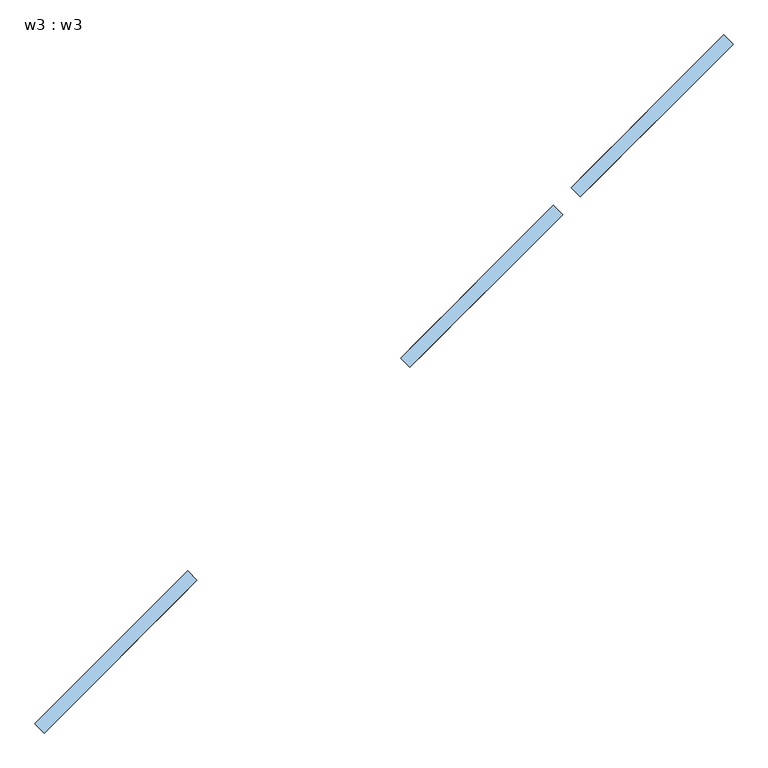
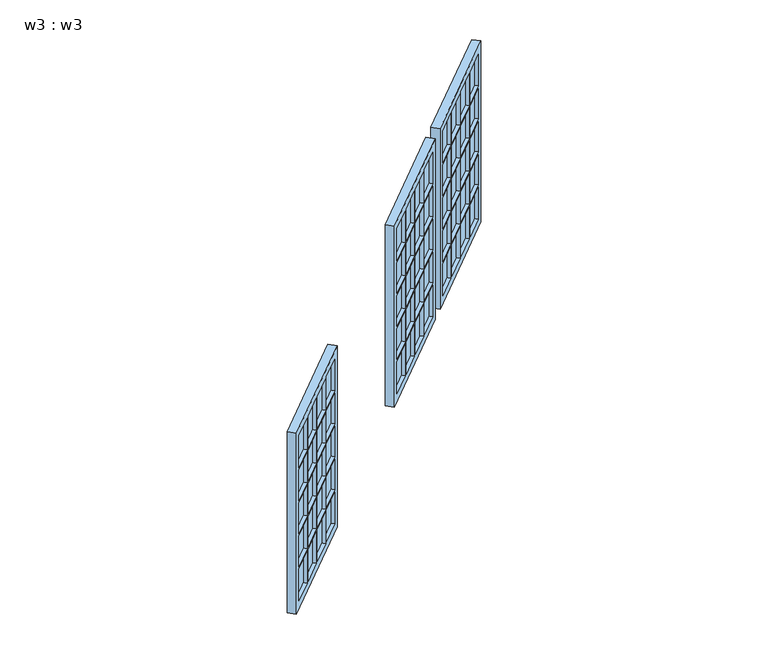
"""IFC4 building model written with IfcOpenShell, lengths in millimetres: window geometry, w3 : w3."""

from ifc_helpers import new_model, si_unit, frame, origin, place, context, project, spatial, polyline, outline, extrude, source, transform, mapped, element, save


def w3_w3_3cd2d508(model_context):
    return source(origin(), model_context, "Body", "SweptSolid", [
        extrude(outline(polyline([(-3882.5332557, 5260.702841), (-3742.1867496, 5401.0345476), (-3735.1160546, 5393.963107), (-3875.4625608, 5253.6314003), (-3882.5332557, 5260.702841)])), frame((0.0, 0.0, 6632.4691085), z_axis=(0.0, 0.0, 1.0), x_axis=(1.0, 0.0, 0.0)), (0.0, 0.0, 1.0), 238.7654457),
        extrude(outline(polyline([(-3882.5332557, 5260.702841), (-3742.1867496, 5401.0345476), (-3735.1160546, 5393.963107), (-3875.4625608, 5253.6314003), (-3882.5332557, 5260.702841)])), frame((0.0, 0.0, 6383.7036628), z_axis=(0.0, 0.0, 1.0), x_axis=(1.0, 0.0, 0.0)), (0.0, 0.0, 1.0), 238.7654457),
        extrude(outline(polyline([(-4038.1049499, 5105.1475518), (-3897.7584437, 5245.4792585), (-3890.6877488, 5238.4078178), (-4031.0342549, 5098.0761112), (-4038.1049499, 5105.1475518)])), frame((0.0, 0.0, 6383.7036628), z_axis=(0.0, 0.0, 1.0), x_axis=(1.0, 0.0, 0.0)), (0.0, 0.0, 1.0), 238.7654457),
        extrude(outline(polyline([(-4038.1049499, 5105.1475518), (-3897.7584437, 5245.4792585), (-3890.6877488, 5238.4078178), (-4031.0342549, 5098.0761112), (-4038.1049499, 5105.1475518)])), frame((0.0, 0.0, 6632.4691085), z_axis=(0.0, 0.0, 1.0), x_axis=(1.0, 0.0, 0.0)), (0.0, 0.0, 1.0), 238.7654457),
        extrude(outline(polyline([(-4193.676644, 4949.5922627), (-4053.3301379, 5089.9239693), (-4046.2594429, 5082.8525287), (-4186.6059491, 4942.5208221), (-4193.676644, 4949.5922627)])), frame((0.0, 0.0, 6632.4691085), z_axis=(0.0, 0.0, 1.0), x_axis=(1.0, 0.0, 0.0)), (0.0, 0.0, 1.0), 238.7654457),
        extrude(outline(polyline([(-4193.676644, 4949.5922627), (-4053.3301379, 5089.9239693), (-4046.2594429, 5082.8525287), (-4186.6059491, 4942.5208221), (-4193.676644, 4949.5922627)])), frame((0.0, 0.0, 6383.7036628), z_axis=(0.0, 0.0, 1.0), x_axis=(1.0, 0.0, 0.0)), (0.0, 0.0, 1.0), 238.7654457),
        extrude(outline(polyline([(-4193.676644, 4949.5922627), (-4053.3301379, 5089.9239693), (-4046.2594429, 5082.8525287), (-4186.6059491, 4942.5208221), (-4193.676644, 4949.5922627)])), frame((0.0, 0.0, 6134.938217), z_axis=(0.0, 0.0, 1.0), x_axis=(1.0, 0.0, 0.0)), (0.0, 0.0, 1.0), 238.7654457),
        extrude(outline(polyline([(-4038.1049499, 5105.1475518), (-3897.7584437, 5245.4792585), (-3890.6877488, 5238.4078178), (-4031.0342549, 5098.0761112), (-4038.1049499, 5105.1475518)])), frame((0.0, 0.0, 6134.938217), z_axis=(0.0, 0.0, 1.0), x_axis=(1.0, 0.0, 0.0)), (0.0, 0.0, 1.0), 238.7654457),
        extrude(outline(polyline([(-3882.5332557, 5260.702841), (-3742.1867496, 5401.0345476), (-3735.1160546, 5393.963107), (-3875.4625608, 5253.6314003), (-3882.5332557, 5260.702841)])), frame((0.0, 0.0, 6134.938217), z_axis=(0.0, 0.0, 1.0), x_axis=(1.0, 0.0, 0.0)), (0.0, 0.0, 1.0), 238.7654457),
        extrude(outline(polyline([(-3882.5332557, 5260.702841), (-3742.1867496, 5401.0345476), (-3735.1160546, 5393.963107), (-3875.4625608, 5253.6314003), (-3882.5332557, 5260.702841)])), frame((0.0, 0.0, 5876.1727713), z_axis=(0.0, 0.0, 1.0), x_axis=(1.0, 0.0, 0.0)), (0.0, 0.0, 1.0), 238.7654457),
        extrude(outline(polyline([(-4038.1049499, 5105.1475518), (-3897.7584437, 5245.4792585), (-3890.6877488, 5238.4078178), (-4031.0342549, 5098.0761112), (-4038.1049499, 5105.1475518)])), frame((0.0, 0.0, 5876.1727713), z_axis=(0.0, 0.0, 1.0), x_axis=(1.0, 0.0, 0.0)), (0.0, 0.0, 1.0), 238.7654457),
        extrude(outline(polyline([(-4193.676644, 4949.5922627), (-4053.3301379, 5089.9239693), (-4046.2594429, 5082.8525287), (-4186.6059491, 4942.5208221), (-4193.676644, 4949.5922627)])), frame((0.0, 0.0, 5876.1727713), z_axis=(0.0, 0.0, 1.0), x_axis=(1.0, 0.0, 0.0)), (0.0, 0.0, 1.0), 238.7654457),
        extrude(outline(polyline([(-4348.1660315, 4795.1191661), (-4207.8195253, 4935.4508728), (-4200.7488303, 4928.3794321), (-4341.0953365, 4788.0477255), (-4348.1660315, 4795.1191661)])), frame((0.0, 0.0, 5876.1727713), z_axis=(0.0, 0.0, 1.0), x_axis=(1.0, 0.0, 0.0)), (0.0, 0.0, 1.0), 238.7654457),
        extrude(outline(polyline([(-4348.1660315, 4795.1191661), (-4207.8195253, 4935.4508728), (-4200.7488303, 4928.3794321), (-4341.0953365, 4788.0477255), (-4348.1660315, 4795.1191661)])), frame((0.0, 0.0, 6134.938217), z_axis=(0.0, 0.0, 1.0), x_axis=(1.0, 0.0, 0.0)), (0.0, 0.0, 1.0), 238.7654457),
        extrude(outline(polyline([(-4348.1660315, 4795.1191661), (-4207.8195253, 4935.4508728), (-4200.7488303, 4928.3794321), (-4341.0953365, 4788.0477255), (-4348.1660315, 4795.1191661)])), frame((0.0, 0.0, 6383.7036628), z_axis=(0.0, 0.0, 1.0), x_axis=(1.0, 0.0, 0.0)), (0.0, 0.0, 1.0), 238.7654457),
        extrude(outline(polyline([(-4348.1660315, 4795.1191661), (-4207.8195253, 4935.4508728), (-4200.7488303, 4928.3794321), (-4341.0953365, 4788.0477255), (-4348.1660315, 4795.1191661)])), frame((0.0, 0.0, 6632.4691085), z_axis=(0.0, 0.0, 1.0), x_axis=(1.0, 0.0, 0.0)), (0.0, 0.0, 1.0), 238.7654457),
        extrude(outline(polyline([(-4348.1660315, 4795.1191661), (-4207.8195253, 4935.4508728), (-4200.7488303, 4928.3794321), (-4341.0953365, 4788.0477255), (-4348.1660315, 4795.1191661)])), frame((0.0, 0.0, 6881.2345543), z_axis=(0.0, 0.0, 1.0), x_axis=(1.0, 0.0, 0.0)), (0.0, 0.0, 1.0), 238.7654457),
        extrude(outline(polyline([(-4193.676644, 4949.5922627), (-4053.3301379, 5089.9239693), (-4046.2594429, 5082.8525287), (-4186.6059491, 4942.5208221), (-4193.676644, 4949.5922627)])), frame((0.0, 0.0, 6881.2345543), z_axis=(0.0, 0.0, 1.0), x_axis=(1.0, 0.0, 0.0)), (0.0, 0.0, 1.0), 238.7654457),
        extrude(outline(polyline([(-4038.1049499, 5105.1475518), (-3897.7584437, 5245.4792585), (-3890.6877488, 5238.4078178), (-4031.0342549, 5098.0761112), (-4038.1049499, 5105.1475518)])), frame((0.0, 0.0, 6881.2345543), z_axis=(0.0, 0.0, 1.0), x_axis=(1.0, 0.0, 0.0)), (0.0, 0.0, 1.0), 238.7654457),
        extrude(outline(polyline([(-3882.5332557, 5260.702841), (-3742.1867496, 5401.0345476), (-3735.1160546, 5393.963107), (-3875.4625608, 5253.6314003), (-3882.5332557, 5260.702841)])), frame((0.0, 0.0, 6881.2345543), z_axis=(0.0, 0.0, 1.0), x_axis=(1.0, 0.0, 0.0)), (0.0, 0.0, 1.0), 238.7654457),
        extrude(outline(polyline([(1363.8272287, 0.0), (1363.8272287, -976.9389357), (0.0, -976.9389357), (0.0, 0.0), (1363.8272287, 0.0)]), holes=[polyline([(1303.8272287, -258.4694679), (1303.8272287, -59.9999999), (1065.061783, -59.9999999), (1065.061783, -258.4694679), (1303.8272287, -258.4694679)]), polyline([(298.7654457, -59.9999999), (60.0, -59.9999999), (60.0, -258.4694679), (298.7654457, -258.4694679), (298.7654457, -59.9999999)]), polyline([(1065.061783, -916.9389357), (1303.8272287, -916.9389357), (1303.8272287, -718.4694678), (1065.061783, -718.4694678), (1065.061783, -916.9389357)]), polyline([(60.0, -718.4694678), (60.0, -916.9389357), (298.7654457, -916.9389357), (298.7654457, -718.4694678), (60.0, -718.4694678)]), polyline([(1065.061783, -498.4694678), (1065.061783, -698.4694679), (1303.8272287, -698.4694679), (1303.8272287, -498.4694678), (1065.061783, -498.4694678)]), polyline([(1065.061783, -478.4694678), (1303.8272287, -478.4694678), (1303.8272287, -278.4694679), (1065.061783, -278.4694679), (1065.061783, -478.4694678)]), polyline([(60.0, -278.4694679), (60.0, -478.4694678), (298.7654457, -478.4694678), (298.7654457, -278.4694679), (60.0, -278.4694679)]), polyline([(60.0, -498.4694678), (60.0, -698.4694679), (298.7654457, -698.4694679), (298.7654457, -498.4694678), (60.0, -498.4694678)]), polyline([(1045.061783, -258.4694679), (1045.061783, -59.9999999), (816.2963372, -59.9999999), (816.2963372, -258.4694679), (1045.061783, -258.4694679)]), polyline([(796.2963372, -258.4694679), (796.2963372, -59.9999999), (567.5308915, -59.9999999), (567.5308915, -258.4694679), (796.2963372, -258.4694679)]), polyline([(547.5308915, -258.4694679), (547.5308915, -59.9999999), (318.7654457, -59.9999999), (318.7654457, -258.4694679), (547.5308915, -258.4694679)]), polyline([(318.7654457, -478.4694678), (547.5308915, -478.4694678), (547.5308915, -278.4694679), (318.7654457, -278.4694679), (318.7654457, -478.4694678)]), polyline([(318.7654457, -698.4694679), (547.5308915, -698.4694679), (547.5308915, -498.4694678), (318.7654457, -498.4694678), (318.7654457, -698.4694679)]), polyline([(318.7654457, -916.9389357), (547.5308915, -916.9389357), (547.5308915, -718.4694678), (318.7654457, -718.4694678), (318.7654457, -916.9389357)]), polyline([(567.5308915, -916.9389357), (796.2963372, -916.9389357), (796.2963372, -718.4694678), (567.5308915, -718.4694678), (567.5308915, -916.9389357)]), polyline([(567.5308915, -698.4694679), (796.2963372, -698.4694679), (796.2963372, -498.4694678), (567.5308915, -498.4694678), (567.5308915, -698.4694679)]), polyline([(567.5308915, -478.4694678), (796.2963372, -478.4694678), (796.2963372, -278.4694679), (567.5308915, -278.4694679), (567.5308915, -478.4694678)]), polyline([(1045.061783, -478.4694678), (1045.061783, -278.4694679), (816.2963372, -278.4694679), (816.2963372, -478.4694678), (1045.061783, -478.4694678)]), polyline([(1045.061783, -698.4694679), (1045.061783, -498.4694678), (816.2963372, -498.4694678), (816.2963372, -698.4694679), (1045.061783, -698.4694679)]), polyline([(1045.061783, -916.9389357), (1045.061783, -718.4694678), (816.2963372, -718.4694678), (816.2963372, -916.9389357), (1045.061783, -916.9389357)])]), frame((-3675.0106734, 5418.7086751, 5816.1727713), z_axis=(-0.7070694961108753, 0.7071440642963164, 0.0), x_axis=(0.0, 0.0, 1.0)), (0.0, 0.0, 1.0), 60.0),
        extrude(outline(polyline([(-2227.8161453, 6915.2454619), (-2087.4696391, 7055.5771685), (-2080.3989442, 7048.5057279), (-2220.7454503, 6908.1740212), (-2227.8161453, 6915.2454619)])), frame((0.0, 0.0, 6612.4691085), z_axis=(0.0, 0.0, 1.0), x_axis=(1.0, 0.0, 0.0)), (0.0, 0.0, 1.0), 238.7654457),
        extrude(outline(polyline([(-2227.8161453, 6915.2454619), (-2087.4696391, 7055.5771685), (-2080.3989442, 7048.5057279), (-2220.7454503, 6908.1740212), (-2227.8161453, 6915.2454619)])), frame((0.0, 0.0, 6363.7036628), z_axis=(0.0, 0.0, 1.0), x_axis=(1.0, 0.0, 0.0)), (0.0, 0.0, 1.0), 238.7654457),
        extrude(outline(polyline([(-2383.3878394, 6759.6901727), (-2243.0413333, 6900.0218794), (-2235.9706383, 6892.9504387), (-2376.3171445, 6752.6187321), (-2383.3878394, 6759.6901727)])), frame((0.0, 0.0, 6363.7036628), z_axis=(0.0, 0.0, 1.0), x_axis=(1.0, 0.0, 0.0)), (0.0, 0.0, 1.0), 238.7654457),
        extrude(outline(polyline([(-2383.3878394, 6759.6901727), (-2243.0413333, 6900.0218794), (-2235.9706383, 6892.9504387), (-2376.3171445, 6752.6187321), (-2383.3878394, 6759.6901727)])), frame((0.0, 0.0, 6612.4691085), z_axis=(0.0, 0.0, 1.0), x_axis=(1.0, 0.0, 0.0)), (0.0, 0.0, 1.0), 238.7654457),
        extrude(outline(polyline([(-2538.9595336, 6604.1348836), (-2398.6130274, 6744.4665902), (-2391.5423325, 6737.3951496), (-2531.8888386, 6597.063443), (-2538.9595336, 6604.1348836)])), frame((0.0, 0.0, 6612.4691085), z_axis=(0.0, 0.0, 1.0), x_axis=(1.0, 0.0, 0.0)), (0.0, 0.0, 1.0), 238.7654457),
        extrude(outline(polyline([(-2538.9595336, 6604.1348836), (-2398.6130274, 6744.4665902), (-2391.5423325, 6737.3951496), (-2531.8888386, 6597.063443), (-2538.9595336, 6604.1348836)])), frame((0.0, 0.0, 6363.7036628), z_axis=(0.0, 0.0, 1.0), x_axis=(1.0, 0.0, 0.0)), (0.0, 0.0, 1.0), 238.7654457),
        extrude(outline(polyline([(-2538.9595336, 6604.1348836), (-2398.6130274, 6744.4665902), (-2391.5423325, 6737.3951496), (-2531.8888386, 6597.063443), (-2538.9595336, 6604.1348836)])), frame((0.0, 0.0, 6114.938217), z_axis=(0.0, 0.0, 1.0), x_axis=(1.0, 0.0, 0.0)), (0.0, 0.0, 1.0), 238.7654457),
        extrude(outline(polyline([(-2383.3878394, 6759.6901727), (-2243.0413333, 6900.0218794), (-2235.9706383, 6892.9504387), (-2376.3171445, 6752.6187321), (-2383.3878394, 6759.6901727)])), frame((0.0, 0.0, 6114.938217), z_axis=(0.0, 0.0, 1.0), x_axis=(1.0, 0.0, 0.0)), (0.0, 0.0, 1.0), 238.7654457),
        extrude(outline(polyline([(-2227.8161453, 6915.2454619), (-2087.4696391, 7055.5771685), (-2080.3989442, 7048.5057279), (-2220.7454503, 6908.1740212), (-2227.8161453, 6915.2454619)])), frame((0.0, 0.0, 6114.938217), z_axis=(0.0, 0.0, 1.0), x_axis=(1.0, 0.0, 0.0)), (0.0, 0.0, 1.0), 238.7654457),
        extrude(outline(polyline([(-2227.8161453, 6915.2454619), (-2087.4696391, 7055.5771685), (-2080.3989442, 7048.5057279), (-2220.7454503, 6908.1740212), (-2227.8161453, 6915.2454619)])), frame((0.0, 0.0, 5856.1727713), z_axis=(0.0, 0.0, 1.0), x_axis=(1.0, 0.0, 0.0)), (0.0, 0.0, 1.0), 238.7654457),
        extrude(outline(polyline([(-2383.3878394, 6759.6901727), (-2243.0413333, 6900.0218794), (-2235.9706383, 6892.9504387), (-2376.3171445, 6752.6187321), (-2383.3878394, 6759.6901727)])), frame((0.0, 0.0, 5856.1727713), z_axis=(0.0, 0.0, 1.0), x_axis=(1.0, 0.0, 0.0)), (0.0, 0.0, 1.0), 238.7654457),
        extrude(outline(polyline([(-2538.9595336, 6604.1348836), (-2398.6130274, 6744.4665902), (-2391.5423325, 6737.3951496), (-2531.8888386, 6597.063443), (-2538.9595336, 6604.1348836)])), frame((0.0, 0.0, 5856.1727713), z_axis=(0.0, 0.0, 1.0), x_axis=(1.0, 0.0, 0.0)), (0.0, 0.0, 1.0), 238.7654457),
        extrude(outline(polyline([(-2693.448921, 6449.661787), (-2553.1024149, 6589.9934937), (-2546.0317199, 6582.922053), (-2686.378226, 6442.5903464), (-2693.448921, 6449.661787)])), frame((0.0, 0.0, 5856.1727713), z_axis=(0.0, 0.0, 1.0), x_axis=(1.0, 0.0, 0.0)), (0.0, 0.0, 1.0), 238.7654457),
        extrude(outline(polyline([(-2693.448921, 6449.661787), (-2553.1024149, 6589.9934937), (-2546.0317199, 6582.922053), (-2686.378226, 6442.5903464), (-2693.448921, 6449.661787)])), frame((0.0, 0.0, 6114.938217), z_axis=(0.0, 0.0, 1.0), x_axis=(1.0, 0.0, 0.0)), (0.0, 0.0, 1.0), 238.7654457),
        extrude(outline(polyline([(-2693.448921, 6449.661787), (-2553.1024149, 6589.9934937), (-2546.0317199, 6582.922053), (-2686.378226, 6442.5903464), (-2693.448921, 6449.661787)])), frame((0.0, 0.0, 6363.7036628), z_axis=(0.0, 0.0, 1.0), x_axis=(1.0, 0.0, 0.0)), (0.0, 0.0, 1.0), 238.7654457),
        extrude(outline(polyline([(-2693.448921, 6449.661787), (-2553.1024149, 6589.9934937), (-2546.0317199, 6582.922053), (-2686.378226, 6442.5903464), (-2693.448921, 6449.661787)])), frame((0.0, 0.0, 6612.4691085), z_axis=(0.0, 0.0, 1.0), x_axis=(1.0, 0.0, 0.0)), (0.0, 0.0, 1.0), 238.7654457),
        extrude(outline(polyline([(-2693.448921, 6449.661787), (-2553.1024149, 6589.9934937), (-2546.0317199, 6582.922053), (-2686.378226, 6442.5903464), (-2693.448921, 6449.661787)])), frame((0.0, 0.0, 6861.2345543), z_axis=(0.0, 0.0, 1.0), x_axis=(1.0, 0.0, 0.0)), (0.0, 0.0, 1.0), 238.7654457),
        extrude(outline(polyline([(-2538.9595336, 6604.1348836), (-2398.6130274, 6744.4665902), (-2391.5423325, 6737.3951496), (-2531.8888386, 6597.063443), (-2538.9595336, 6604.1348836)])), frame((0.0, 0.0, 6861.2345543), z_axis=(0.0, 0.0, 1.0), x_axis=(1.0, 0.0, 0.0)), (0.0, 0.0, 1.0), 238.7654457),
        extrude(outline(polyline([(-2383.3878394, 6759.6901727), (-2243.0413333, 6900.0218794), (-2235.9706383, 6892.9504387), (-2376.3171445, 6752.6187321), (-2383.3878394, 6759.6901727)])), frame((0.0, 0.0, 6861.2345543), z_axis=(0.0, 0.0, 1.0), x_axis=(1.0, 0.0, 0.0)), (0.0, 0.0, 1.0), 238.7654457),
        extrude(outline(polyline([(-2227.8161453, 6915.2454619), (-2087.4696391, 7055.5771685), (-2080.3989442, 7048.5057279), (-2220.7454503, 6908.1740212), (-2227.8161453, 6915.2454619)])), frame((0.0, 0.0, 6861.2345543), z_axis=(0.0, 0.0, 1.0), x_axis=(1.0, 0.0, 0.0)), (0.0, 0.0, 1.0), 238.7654457),
        extrude(outline(polyline([(1363.8272287, 0.0), (1363.8272287, -976.9389357), (0.0, -976.9389357), (0.0, 0.0), (1363.8272287, 0.0)]), holes=[polyline([(1303.8272287, -258.4694679), (1303.8272287, -60.0), (1065.061783, -60.0), (1065.061783, -258.4694679), (1303.8272287, -258.4694679)]), polyline([(298.7654457, -60.0), (60.0, -60.0), (60.0, -258.4694679), (298.7654457, -258.4694679), (298.7654457, -60.0)]), polyline([(1065.061783, -916.9389357), (1303.8272287, -916.9389357), (1303.8272287, -718.4694679), (1065.061783, -718.4694679), (1065.061783, -916.9389357)]), polyline([(60.0, -718.4694679), (60.0, -916.9389357), (298.7654457, -916.9389357), (298.7654457, -718.4694679), (60.0, -718.4694679)]), polyline([(1065.061783, -498.4694678), (1065.061783, -698.4694679), (1303.8272287, -698.4694679), (1303.8272287, -498.4694678), (1065.061783, -498.4694678)]), polyline([(1065.061783, -478.4694679), (1303.8272287, -478.4694679), (1303.8272287, -278.4694679), (1065.061783, -278.4694679), (1065.061783, -478.4694679)]), polyline([(60.0, -278.4694679), (60.0, -478.4694679), (298.7654457, -478.4694679), (298.7654457, -278.4694679), (60.0, -278.4694679)]), polyline([(60.0, -498.4694678), (60.0, -698.4694679), (298.7654457, -698.4694679), (298.7654457, -498.4694678), (60.0, -498.4694678)]), polyline([(1045.061783, -258.4694679), (1045.061783, -60.0), (816.2963372, -60.0), (816.2963372, -258.4694679), (1045.061783, -258.4694679)]), polyline([(796.2963372, -258.4694679), (796.2963372, -60.0), (567.5308915, -60.0), (567.5308915, -258.4694679), (796.2963372, -258.4694679)]), polyline([(547.5308915, -258.4694679), (547.5308915, -60.0), (318.7654457, -60.0), (318.7654457, -258.4694679), (547.5308915, -258.4694679)]), polyline([(318.7654457, -478.4694679), (547.5308915, -478.4694679), (547.5308915, -278.4694679), (318.7654457, -278.4694679), (318.7654457, -478.4694679)]), polyline([(318.7654457, -698.4694679), (547.5308915, -698.4694679), (547.5308915, -498.4694678), (318.7654457, -498.4694678), (318.7654457, -698.4694679)]), polyline([(318.7654457, -916.9389357), (547.5308915, -916.9389357), (547.5308915, -718.4694679), (318.7654457, -718.4694679), (318.7654457, -916.9389357)]), polyline([(567.5308915, -916.9389357), (796.2963372, -916.9389357), (796.2963372, -718.4694679), (567.5308915, -718.4694679), (567.5308915, -916.9389357)]), polyline([(567.5308915, -698.4694679), (796.2963372, -698.4694679), (796.2963372, -498.4694678), (567.5308915, -498.4694678), (567.5308915, -698.4694679)]), polyline([(567.5308915, -478.4694679), (796.2963372, -478.4694679), (796.2963372, -278.4694679), (567.5308915, -278.4694679), (567.5308915, -478.4694679)]), polyline([(1045.061783, -478.4694679), (1045.061783, -278.4694679), (816.2963372, -278.4694679), (816.2963372, -478.4694679), (1045.061783, -478.4694679)]), polyline([(1045.061783, -698.4694679), (1045.061783, -498.4694678), (816.2963372, -498.4694678), (816.2963372, -698.4694679), (1045.061783, -698.4694679)]), polyline([(1045.061783, -916.9389357), (1045.061783, -718.4694679), (816.2963372, -718.4694679), (816.2963372, -916.9389357), (1045.061783, -916.9389357)])]), frame((-2020.2935629, 7073.251296, 5796.1727713), z_axis=(-0.7070694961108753, 0.7071440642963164, 0.0), x_axis=(0.0, 0.0, 1.0)), (0.0, 0.0, 1.0), 60.0),
        extrude(outline(polyline([(-1456.3856161, 7686.5946439), (-1316.0391099, 7826.9263506), (-1308.968415, 7819.8549099), (-1449.3149211, 7679.5232033), (-1456.3856161, 7686.5946439)])), frame((0.0, 0.0, 6612.4691085), z_axis=(0.0, 0.0, 1.0), x_axis=(1.0, 0.0, 0.0)), (0.0, 0.0, 1.0), 238.7654457),
        extrude(outline(polyline([(-1456.3856161, 7686.5946439), (-1316.0391099, 7826.9263506), (-1308.968415, 7819.8549099), (-1449.3149211, 7679.5232033), (-1456.3856161, 7686.5946439)])), frame((0.0, 0.0, 6363.7036628), z_axis=(0.0, 0.0, 1.0), x_axis=(1.0, 0.0, 0.0)), (0.0, 0.0, 1.0), 238.7654457),
        extrude(outline(polyline([(-1611.9573102, 7531.0393548), (-1471.6108041, 7671.3710614), (-1464.5401091, 7664.2996208), (-1604.8866152, 7523.9679141), (-1611.9573102, 7531.0393548)])), frame((0.0, 0.0, 6363.7036628), z_axis=(0.0, 0.0, 1.0), x_axis=(1.0, 0.0, 0.0)), (0.0, 0.0, 1.0), 238.7654457),
        extrude(outline(polyline([(-1611.9573102, 7531.0393548), (-1471.6108041, 7671.3710614), (-1464.5401091, 7664.2996208), (-1604.8866152, 7523.9679141), (-1611.9573102, 7531.0393548)])), frame((0.0, 0.0, 6612.4691085), z_axis=(0.0, 0.0, 1.0), x_axis=(1.0, 0.0, 0.0)), (0.0, 0.0, 1.0), 238.7654457),
        extrude(outline(polyline([(-1767.5290044, 7375.4840656), (-1627.1824982, 7515.8157723), (-1620.1118032, 7508.7443316), (-1760.4583094, 7368.412625), (-1767.5290044, 7375.4840656)])), frame((0.0, 0.0, 6612.4691085), z_axis=(0.0, 0.0, 1.0), x_axis=(1.0, 0.0, 0.0)), (0.0, 0.0, 1.0), 238.7654457),
        extrude(outline(polyline([(-1767.5290044, 7375.4840656), (-1627.1824982, 7515.8157723), (-1620.1118032, 7508.7443316), (-1760.4583094, 7368.412625), (-1767.5290044, 7375.4840656)])), frame((0.0, 0.0, 6363.7036628), z_axis=(0.0, 0.0, 1.0), x_axis=(1.0, 0.0, 0.0)), (0.0, 0.0, 1.0), 238.7654457),
        extrude(outline(polyline([(-1767.5290044, 7375.4840656), (-1627.1824982, 7515.8157723), (-1620.1118032, 7508.7443316), (-1760.4583094, 7368.412625), (-1767.5290044, 7375.4840656)])), frame((0.0, 0.0, 6114.938217), z_axis=(0.0, 0.0, 1.0), x_axis=(1.0, 0.0, 0.0)), (0.0, 0.0, 1.0), 238.7654457),
        extrude(outline(polyline([(-1611.9573102, 7531.0393548), (-1471.6108041, 7671.3710614), (-1464.5401091, 7664.2996208), (-1604.8866152, 7523.9679141), (-1611.9573102, 7531.0393548)])), frame((0.0, 0.0, 6114.938217), z_axis=(0.0, 0.0, 1.0), x_axis=(1.0, 0.0, 0.0)), (0.0, 0.0, 1.0), 238.7654457),
        extrude(outline(polyline([(-1456.3856161, 7686.5946439), (-1316.0391099, 7826.9263506), (-1308.968415, 7819.8549099), (-1449.3149211, 7679.5232033), (-1456.3856161, 7686.5946439)])), frame((0.0, 0.0, 6114.938217), z_axis=(0.0, 0.0, 1.0), x_axis=(1.0, 0.0, 0.0)), (0.0, 0.0, 1.0), 238.7654457),
        extrude(outline(polyline([(-1456.3856161, 7686.5946439), (-1316.0391099, 7826.9263506), (-1308.968415, 7819.8549099), (-1449.3149211, 7679.5232033), (-1456.3856161, 7686.5946439)])), frame((0.0, 0.0, 5856.1727713), z_axis=(0.0, 0.0, 1.0), x_axis=(1.0, 0.0, 0.0)), (0.0, 0.0, 1.0), 238.7654457),
        extrude(outline(polyline([(-1611.9573102, 7531.0393548), (-1471.6108041, 7671.3710614), (-1464.5401091, 7664.2996208), (-1604.8866152, 7523.9679141), (-1611.9573102, 7531.0393548)])), frame((0.0, 0.0, 5856.1727713), z_axis=(0.0, 0.0, 1.0), x_axis=(1.0, 0.0, 0.0)), (0.0, 0.0, 1.0), 238.7654457),
        extrude(outline(polyline([(-1767.5290044, 7375.4840656), (-1627.1824982, 7515.8157723), (-1620.1118032, 7508.7443316), (-1760.4583094, 7368.412625), (-1767.5290044, 7375.4840656)])), frame((0.0, 0.0, 5856.1727713), z_axis=(0.0, 0.0, 1.0), x_axis=(1.0, 0.0, 0.0)), (0.0, 0.0, 1.0), 238.7654457),
        extrude(outline(polyline([(-1922.0183918, 7221.0109691), (-1781.6718856, 7361.3426757), (-1774.6011907, 7354.2712351), (-1914.9476968, 7213.9395284), (-1922.0183918, 7221.0109691)])), frame((0.0, 0.0, 5856.1727713), z_axis=(0.0, 0.0, 1.0), x_axis=(1.0, 0.0, 0.0)), (0.0, 0.0, 1.0), 238.7654457),
        extrude(outline(polyline([(-1922.0183918, 7221.0109691), (-1781.6718856, 7361.3426757), (-1774.6011907, 7354.2712351), (-1914.9476968, 7213.9395284), (-1922.0183918, 7221.0109691)])), frame((0.0, 0.0, 6114.938217), z_axis=(0.0, 0.0, 1.0), x_axis=(1.0, 0.0, 0.0)), (0.0, 0.0, 1.0), 238.7654457),
        extrude(outline(polyline([(-1922.0183918, 7221.0109691), (-1781.6718856, 7361.3426757), (-1774.6011907, 7354.2712351), (-1914.9476968, 7213.9395284), (-1922.0183918, 7221.0109691)])), frame((0.0, 0.0, 6363.7036628), z_axis=(0.0, 0.0, 1.0), x_axis=(1.0, 0.0, 0.0)), (0.0, 0.0, 1.0), 238.7654457),
        extrude(outline(polyline([(-1922.0183918, 7221.0109691), (-1781.6718856, 7361.3426757), (-1774.6011907, 7354.2712351), (-1914.9476968, 7213.9395284), (-1922.0183918, 7221.0109691)])), frame((0.0, 0.0, 6612.4691085), z_axis=(0.0, 0.0, 1.0), x_axis=(1.0, 0.0, 0.0)), (0.0, 0.0, 1.0), 238.7654457),
        extrude(outline(polyline([(-1922.0183918, 7221.0109691), (-1781.6718856, 7361.3426757), (-1774.6011907, 7354.2712351), (-1914.9476968, 7213.9395284), (-1922.0183918, 7221.0109691)])), frame((0.0, 0.0, 6861.2345543), z_axis=(0.0, 0.0, 1.0), x_axis=(1.0, 0.0, 0.0)), (0.0, 0.0, 1.0), 238.7654457),
        extrude(outline(polyline([(-1767.5290044, 7375.4840656), (-1627.1824982, 7515.8157723), (-1620.1118032, 7508.7443316), (-1760.4583094, 7368.412625), (-1767.5290044, 7375.4840656)])), frame((0.0, 0.0, 6861.2345543), z_axis=(0.0, 0.0, 1.0), x_axis=(1.0, 0.0, 0.0)), (0.0, 0.0, 1.0), 238.7654457),
        extrude(outline(polyline([(-1611.9573102, 7531.0393548), (-1471.6108041, 7671.3710614), (-1464.5401091, 7664.2996208), (-1604.8866152, 7523.9679141), (-1611.9573102, 7531.0393548)])), frame((0.0, 0.0, 6861.2345543), z_axis=(0.0, 0.0, 1.0), x_axis=(1.0, 0.0, 0.0)), (0.0, 0.0, 1.0), 238.7654457),
        extrude(outline(polyline([(-1456.3856161, 7686.5946439), (-1316.0391099, 7826.9263506), (-1308.968415, 7819.8549099), (-1449.3149211, 7679.5232033), (-1456.3856161, 7686.5946439)])), frame((0.0, 0.0, 6861.2345543), z_axis=(0.0, 0.0, 1.0), x_axis=(1.0, 0.0, 0.0)), (0.0, 0.0, 1.0), 238.7654457),
        extrude(outline(polyline([(1363.8272287, 0.0), (1363.8272287, -976.9389357), (0.0, -976.9389357), (0.0, 0.0), (1363.8272287, 0.0)]), holes=[polyline([(1303.8272287, -258.4694679), (1303.8272287, -60.0000001), (1065.061783, -60.0000001), (1065.061783, -258.4694679), (1303.8272287, -258.4694679)]), polyline([(298.7654457, -60.0000001), (60.0, -60.0000001), (60.0, -258.4694679), (298.7654457, -258.4694679), (298.7654457, -60.0000001)]), polyline([(1065.061783, -916.9389357), (1303.8272287, -916.9389357), (1303.8272287, -718.4694679), (1065.061783, -718.4694679), (1065.061783, -916.9389357)]), polyline([(60.0, -718.4694679), (60.0, -916.9389357), (298.7654457, -916.9389357), (298.7654457, -718.4694679), (60.0, -718.4694679)]), polyline([(1065.061783, -498.4694679), (1065.061783, -698.4694679), (1303.8272287, -698.4694679), (1303.8272287, -498.4694679), (1065.061783, -498.4694679)]), polyline([(1065.061783, -478.4694679), (1303.8272287, -478.4694679), (1303.8272287, -278.4694679), (1065.061783, -278.4694679), (1065.061783, -478.4694679)]), polyline([(60.0, -278.4694679), (60.0, -478.4694679), (298.7654457, -478.4694679), (298.7654457, -278.4694679), (60.0, -278.4694679)]), polyline([(60.0, -498.4694679), (60.0, -698.4694679), (298.7654457, -698.4694679), (298.7654457, -498.4694679), (60.0, -498.4694679)]), polyline([(1045.061783, -258.4694679), (1045.061783, -60.0000001), (816.2963372, -60.0000001), (816.2963372, -258.4694679), (1045.061783, -258.4694679)]), polyline([(796.2963372, -258.4694679), (796.2963372, -60.0000001), (567.5308915, -60.0000001), (567.5308915, -258.4694679), (796.2963372, -258.4694679)]), polyline([(547.5308915, -258.4694679), (547.5308915, -60.0000001), (318.7654457, -60.0000001), (318.7654457, -258.4694679), (547.5308915, -258.4694679)]), polyline([(318.7654457, -478.4694679), (547.5308915, -478.4694679), (547.5308915, -278.4694679), (318.7654457, -278.4694679), (318.7654457, -478.4694679)]), polyline([(318.7654457, -698.4694679), (547.5308915, -698.4694679), (547.5308915, -498.4694679), (318.7654457, -498.4694679), (318.7654457, -698.4694679)]), polyline([(318.7654457, -916.9389357), (547.5308915, -916.9389357), (547.5308915, -718.4694679), (318.7654457, -718.4694679), (318.7654457, -916.9389357)]), polyline([(567.5308915, -916.9389357), (796.2963372, -916.9389357), (796.2963372, -718.4694679), (567.5308915, -718.4694679), (567.5308915, -916.9389357)]), polyline([(567.5308915, -698.4694679), (796.2963372, -698.4694679), (796.2963372, -498.4694679), (567.5308915, -498.4694679), (567.5308915, -698.4694679)]), polyline([(567.5308915, -478.4694679), (796.2963372, -478.4694679), (796.2963372, -278.4694679), (567.5308915, -278.4694679), (567.5308915, -478.4694679)]), polyline([(1045.061783, -478.4694679), (1045.061783, -278.4694679), (816.2963372, -278.4694679), (816.2963372, -478.4694679), (1045.061783, -478.4694679)]), polyline([(1045.061783, -698.4694679), (1045.061783, -498.4694679), (816.2963372, -498.4694679), (816.2963372, -698.4694679), (1045.061783, -698.4694679)]), polyline([(1045.061783, -916.9389357), (1045.061783, -718.4694679), (816.2963372, -718.4694679), (816.2963372, -916.9389357), (1045.061783, -916.9389357)])]), frame((-1248.8630337, 7844.6004781, 5796.1727713), z_axis=(-0.7070694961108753, 0.7071440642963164, 0.0), x_axis=(0.0, 0.0, 1.0)), (0.0, 0.0, 1.0), 60.0),
    ])


if __name__ == "__main__":
    model = new_model("IFC4")
    model_context = context("Model", 3, world=origin())
    ifc_project = project(units=[si_unit("LENGTHUNIT", "METRE", prefix="MILLI")], contexts=[model_context])
    site = spatial("IfcSite", under=ifc_project)
    building = spatial("IfcBuilding", under=site)
    placement = place(None, origin())
    w3_w3_shape = w3_w3_3cd2d508(model_context)
    element("IfcWindow", 1, ObjectType="w3 : w3", at=placement, inside=building, context=model_context, shape_type="MappedRepresentation", body=[
        mapped(w3_w3_shape, transform((0.0, 0.0, 0.0), x_axis=(1.0, 0.0, 0.0), y_axis=(0.0, 1.0, 0.0), z_axis=(0.0, 0.0, 1.0))),
    ])
    save(model, "model.ifc")
